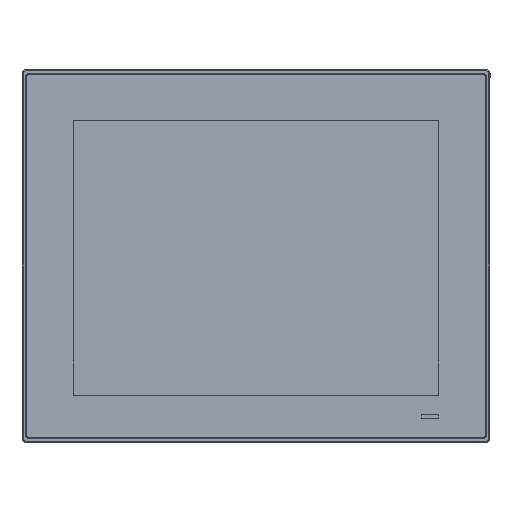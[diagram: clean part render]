
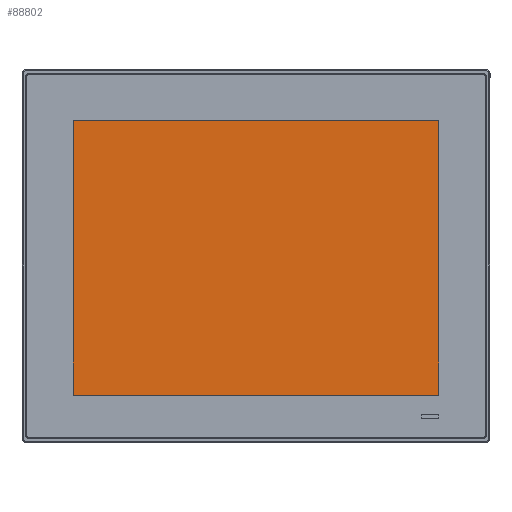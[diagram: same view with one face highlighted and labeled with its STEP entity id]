
A CAD part, top view. The second image highlights one B-rep face of the part: STEP entity #88802.
In plain terms, the highlighted planar face has unit normal (0, 0, 1).
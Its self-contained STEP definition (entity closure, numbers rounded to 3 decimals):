
#3643 = DIRECTION ( 'NONE',  ( 0., 1., 0. ) ) ;
#4016 = VERTEX_POINT ( 'NONE', #30175 ) ;
#4857 = EDGE_CURVE ( 'NONE', #46371, #53162, #38712, .T. ) ;
#5500 = VERTEX_POINT ( 'NONE', #54152 ) ;
#10543 = PLANE ( 'NONE',  #82568 ) ;
#10858 = DIRECTION ( 'NONE',  ( 0., 0., -1. ) ) ;
#13122 = LINE ( 'NONE', #14590, #45930 ) ;
#13975 = VECTOR ( 'NONE', #84763, 1000. ) ;
#14590 = CARTESIAN_POINT ( 'NONE',  ( -106.25, 78.79, 2.1 ) ) ;
#17154 = EDGE_LOOP ( 'NONE', ( #76328, #35592, #83087, #56901 ) ) ;
#22024 = FACE_OUTER_BOUND ( 'NONE', #17154, .T. ) ;
#27608 = VECTOR ( 'NONE', #3643, 1000. ) ;
#30175 = CARTESIAN_POINT ( 'NONE',  ( 106.25, -80.79, 2.1 ) ) ;
#35592 = ORIENTED_EDGE ( 'NONE', *, *, #74879, .T. ) ;
#38712 = LINE ( 'NONE', #83154, #88172 ) ;
#45930 = VECTOR ( 'NONE', #84635, 1000. ) ;
#46371 = VERTEX_POINT ( 'NONE', #84804 ) ;
#52589 = CARTESIAN_POINT ( 'NONE',  ( 0., 0., 2.1 ) ) ;
#53162 = VERTEX_POINT ( 'NONE', #71991 ) ;
#54152 = CARTESIAN_POINT ( 'NONE',  ( 106.25, 78.79, 2.1 ) ) ;
#56901 = ORIENTED_EDGE ( 'NONE', *, *, #4857, .T. ) ;
#59585 = DIRECTION ( 'NONE',  ( -1., 0., 0. ) ) ;
#65366 = CARTESIAN_POINT ( 'NONE',  ( 106.25, 78.79, 2.1 ) ) ;
#66640 = LINE ( 'NONE', #70779, #13975 ) ;
#70779 = CARTESIAN_POINT ( 'NONE',  ( 106.25, -80.79, 2.1 ) ) ;
#71102 = LINE ( 'NONE', #65366, #27608 ) ;
#71991 = CARTESIAN_POINT ( 'NONE',  ( -106.25, -80.79, 2.1 ) ) ;
#72030 = EDGE_CURVE ( 'NONE', #53162, #4016, #66640, .T. ) ;
#74879 = EDGE_CURVE ( 'NONE', #4016, #5500, #71102, .T. ) ;
#76328 = ORIENTED_EDGE ( 'NONE', *, *, #72030, .T. ) ;
#80472 = EDGE_CURVE ( 'NONE', #5500, #46371, #13122, .T. ) ;
#82568 = AXIS2_PLACEMENT_3D ( 'NONE', #52589, #10858, #59585 ) ;
#83087 = ORIENTED_EDGE ( 'NONE', *, *, #80472, .T. ) ;
#83154 = CARTESIAN_POINT ( 'NONE',  ( -106.25, -80.79, 2.1 ) ) ;
#83582 = DIRECTION ( 'NONE',  ( 0., -1., 0. ) ) ;
#84635 = DIRECTION ( 'NONE',  ( -1., 0., 0. ) ) ;
#84763 = DIRECTION ( 'NONE',  ( 1., 0., 0. ) ) ;
#84804 = CARTESIAN_POINT ( 'NONE',  ( -106.25, 78.79, 2.1 ) ) ;
#88172 = VECTOR ( 'NONE', #83582, 1000. ) ;
#88802 = ADVANCED_FACE ( 'NONE', ( #22024 ), #10543, .F. ) ;
